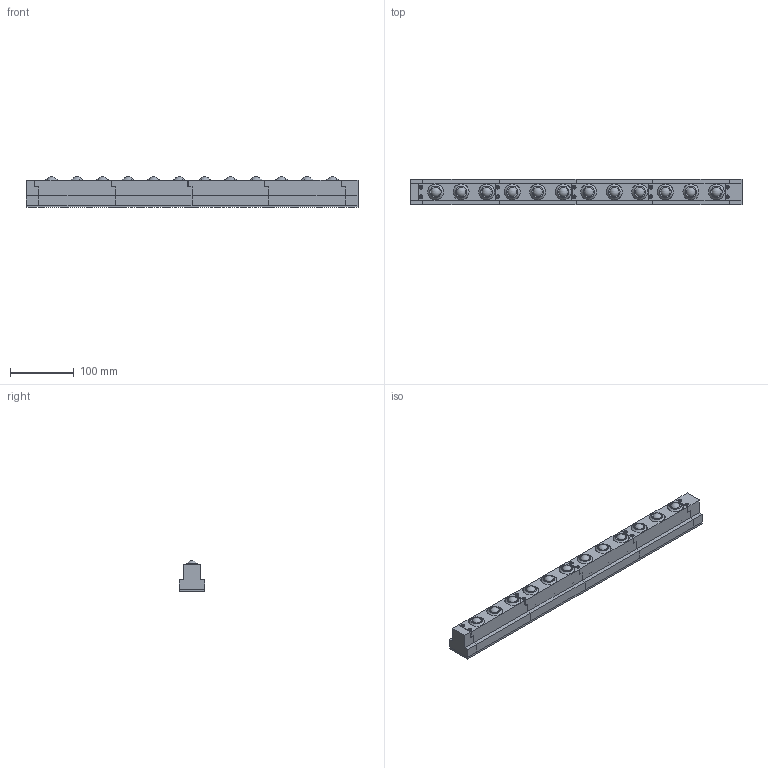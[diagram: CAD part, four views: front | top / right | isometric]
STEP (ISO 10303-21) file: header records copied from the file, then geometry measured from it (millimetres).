
FILE_DESCRIPTION(/* description */ (''),/* implementation_level */ '2;1');
FILE_NAME(/* name */ 'Z:\34-Tei\01-web 3Dデータ\45-ISR-28T\X2\578B\X0\\ISR-28T-520.stp',/* time_stamp */ '2015-01-16T10:56:22+09:00',/* author */ ('yamaki'),/* organization */ (''),/* preprocessor_version */ 'ST-DEVELOPER v15.6',/* originating_system */ 'Autodesk Inventor 2015',/* authorisation */ '');
FILE_SCHEMA (('AUTOMOTIVE_DESIGN { 1 0 10303 214 3 1 1 }'));
Length unit declared in the file: millimetre
Products named in the file (9): 4B03BA-04; 4B03TB; 4B03CB; JIS B 1111 - Csunk M4 x 10 - H; JIS B 1176 - M3 x 10; 4B03SL; 0316AA; 4B03PS; 4B03AA
Bounding box: 520 x 40 x 47.95 mm (x, y, z)
Volume: 662252.8 mm3; surface area: 260967.1 mm2
Topology: 77 solids, 77 shells, 2063 faces, 4999 edges, 3198 vertices
Faces by surface type: plane 772, cone 614, cylinder 417, torus 248, sphere 12
Full cylindrical faces by diameter (mm): 2 x9, 2.459 x10, 2.5 x8, 3 x10, 3.242 x36, 3.5 x10, 3.571 x36, 4 x36, 4.5 x36, 4.917 x12, 5.5 x10, 6 x12, 6.2 x5, 6.5 x12, 8.4 x36, 10 x12, 11.445 x1, 24 x24, 24.9 x12, 25 x12, 29.8 x24, 30 x12
Entity records: 8444 total; most frequent: CARTESIAN_POINT 1594, DIRECTION 1474, ORIENTED_EDGE 1012, AXIS2_PLACEMENT_3D 636, EDGE_LOOP 552, EDGE_CURVE 506, VERTEX_POINT 410, FACE_OUTER_BOUND 286
